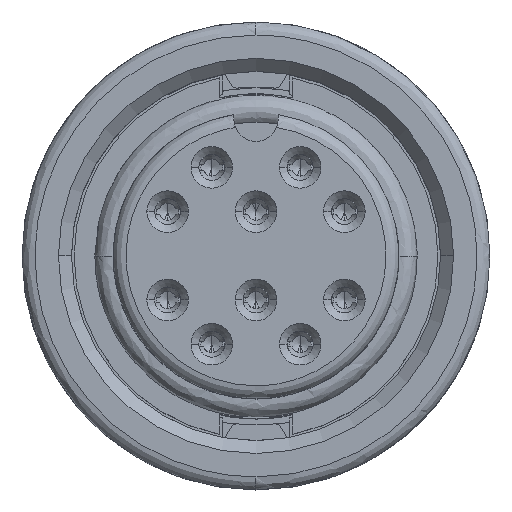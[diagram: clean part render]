
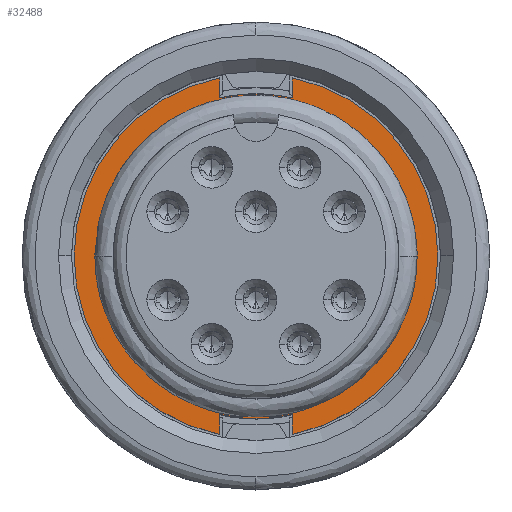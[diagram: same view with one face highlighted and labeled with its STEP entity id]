
A CAD part, top view. The second image highlights one B-rep face of the part: STEP entity #32488.
In plain terms, the highlighted planar face has unit normal (0, 0, 1).
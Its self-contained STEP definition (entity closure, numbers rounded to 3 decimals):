
#385 = VECTOR ( 'NONE', #39840, 1000. ) ;
#1000 = CARTESIAN_POINT ( 'NONE',  ( 1.4, 6.859, -7.8 ) ) ;
#1008 = EDGE_CURVE ( 'NONE', #22319, #39176, #25017, .T. ) ;
#1203 = ORIENTED_EDGE ( 'NONE', *, *, #3657, .T. ) ;
#2185 = DIRECTION ( 'NONE',  ( -1., 0., 0. ) ) ;
#2946 = DIRECTION ( 'NONE',  ( 0., 0., 1. ) ) ;
#3288 = AXIS2_PLACEMENT_3D ( 'NONE', #7822, #17799, #24792 ) ;
#3657 = EDGE_CURVE ( 'NONE', #23824, #35561, #36348, .T. ) ;
#5276 = ORIENTED_EDGE ( 'NONE', *, *, #34188, .T. ) ;
#5352 = ORIENTED_EDGE ( 'NONE', *, *, #32143, .T. ) ;
#6903 = CIRCLE ( 'NONE', #33633, 7. ) ;
#7312 = DIRECTION ( 'NONE',  ( 0., 0., 1. ) ) ;
#7415 = CARTESIAN_POINT ( 'NONE',  ( -1.4, -6.091, -7.8 ) ) ;
#7733 = AXIS2_PLACEMENT_3D ( 'NONE', #21817, #38846, #7807 ) ;
#7807 = DIRECTION ( 'NONE',  ( -1., 0., 0. ) ) ;
#7822 = CARTESIAN_POINT ( 'NONE',  ( 0., 0., -7.8 ) ) ;
#7953 = ORIENTED_EDGE ( 'NONE', *, *, #28069, .T. ) ;
#8290 = EDGE_CURVE ( 'NONE', #33566, #23824, #16188, .T. ) ;
#8492 = DIRECTION ( 'NONE',  ( 0., 1., 0. ) ) ;
#9149 = DIRECTION ( 'NONE',  ( 0., 1., 0. ) ) ;
#9248 = LINE ( 'NONE', #39621, #385 ) ;
#9350 = CARTESIAN_POINT ( 'NONE',  ( -1.4, 6.091, -7.8 ) ) ;
#10391 = ORIENTED_EDGE ( 'NONE', *, *, #12648, .T. ) ;
#10840 = CARTESIAN_POINT ( 'NONE',  ( -1.4, -6.859, -7.8 ) ) ;
#11635 = AXIS2_PLACEMENT_3D ( 'NONE', #36191, #16269, #2185 ) ;
#12302 = CIRCLE ( 'NONE', #39078, 6.25 ) ;
#12341 = ORIENTED_EDGE ( 'NONE', *, *, #8290, .T. ) ;
#12648 = EDGE_CURVE ( 'NONE', #40571, #33566, #9248, .T. ) ;
#13969 = DIRECTION ( 'NONE',  ( 0., 0., 1. ) ) ;
#14119 = DIRECTION ( 'NONE',  ( 1., 0., 0. ) ) ;
#14155 = CIRCLE ( 'NONE', #3288, 7. ) ;
#14279 = AXIS2_PLACEMENT_3D ( 'NONE', #20435, #7312, #14119 ) ;
#14849 = CARTESIAN_POINT ( 'NONE',  ( -1.4, 0., -7.8 ) ) ;
#15266 = CIRCLE ( 'NONE', #11635, 5.5 ) ;
#15391 = VERTEX_POINT ( 'NONE', #24214 ) ;
#15494 = EDGE_CURVE ( 'NONE', #23407, #15391, #35988, .T. ) ;
#16188 = CIRCLE ( 'NONE', #28452, 6.25 ) ;
#16269 = DIRECTION ( 'NONE',  ( 0., 0., -1. ) ) ;
#17146 = ORIENTED_EDGE ( 'NONE', *, *, #40304, .T. ) ;
#17799 = DIRECTION ( 'NONE',  ( 0., 0., 1. ) ) ;
#18460 = DIRECTION ( 'NONE',  ( -1., 0., 0. ) ) ;
#19340 = VERTEX_POINT ( 'NONE', #34136 ) ;
#20435 = CARTESIAN_POINT ( 'NONE',  ( 0., 0., -7.8 ) ) ;
#21610 = VECTOR ( 'NONE', #8492, 1000. ) ;
#21817 = CARTESIAN_POINT ( 'NONE',  ( 0., 0., -7.8 ) ) ;
#22319 = VERTEX_POINT ( 'NONE', #10840 ) ;
#23407 = VERTEX_POINT ( 'NONE', #35101 ) ;
#23797 = CARTESIAN_POINT ( 'NONE',  ( 0., 0., -7.8 ) ) ;
#23824 = VERTEX_POINT ( 'NONE', #9350 ) ;
#23852 = FACE_BOUND ( 'NONE', #39133, .T. ) ;
#24214 = CARTESIAN_POINT ( 'NONE',  ( 1.4, -6.859, -7.8 ) ) ;
#24389 = VECTOR ( 'NONE', #43450, 1000. ) ;
#24792 = DIRECTION ( 'NONE',  ( -1., 0., 0. ) ) ;
#25017 = LINE ( 'NONE', #14849, #21610 ) ;
#25923 = CARTESIAN_POINT ( 'NONE',  ( -1.4, 0., -7.8 ) ) ;
#26796 = CARTESIAN_POINT ( 'NONE',  ( 0., 0., -7.8 ) ) ;
#27285 = CIRCLE ( 'NONE', #7733, 5.5 ) ;
#28069 = EDGE_CURVE ( 'NONE', #35561, #22319, #6903, .T. ) ;
#28151 = FACE_OUTER_BOUND ( 'NONE', #42337, .T. ) ;
#28452 = AXIS2_PLACEMENT_3D ( 'NONE', #23797, #2946, #33321 ) ;
#29661 = CARTESIAN_POINT ( 'NONE',  ( 1.4, 0., -7.8 ) ) ;
#29864 = VECTOR ( 'NONE', #9149, 1000. ) ;
#32143 = EDGE_CURVE ( 'NONE', #42263, #19340, #27285, .T. ) ;
#32261 = CARTESIAN_POINT ( 'NONE',  ( 0., 0., -7.8 ) ) ;
#32488 = ADVANCED_FACE ( 'NONE', ( #28151, #23852 ), #41301, .T. ) ;
#32562 = ORIENTED_EDGE ( 'NONE', *, *, #35262, .T. ) ;
#33321 = DIRECTION ( 'NONE',  ( -1., 0., 0. ) ) ;
#33566 = VERTEX_POINT ( 'NONE', #34280 ) ;
#33633 = AXIS2_PLACEMENT_3D ( 'NONE', #26796, #40614, #43774 ) ;
#34136 = CARTESIAN_POINT ( 'NONE',  ( 0., 5.5, -7.8 ) ) ;
#34188 = EDGE_CURVE ( 'NONE', #19340, #42263, #15266, .T. ) ;
#34280 = CARTESIAN_POINT ( 'NONE',  ( 1.4, 6.091, -7.8 ) ) ;
#34461 = CARTESIAN_POINT ( 'NONE',  ( 0., -5.5, -7.8 ) ) ;
#35101 = CARTESIAN_POINT ( 'NONE',  ( 1.4, -6.091, -7.8 ) ) ;
#35262 = EDGE_CURVE ( 'NONE', #39176, #23407, #12302, .T. ) ;
#35561 = VERTEX_POINT ( 'NONE', #43137 ) ;
#35988 = LINE ( 'NONE', #29661, #24389 ) ;
#36191 = CARTESIAN_POINT ( 'NONE',  ( 0., 0., -7.8 ) ) ;
#36348 = LINE ( 'NONE', #25923, #29864 ) ;
#38846 = DIRECTION ( 'NONE',  ( 0., 0., -1. ) ) ;
#39078 = AXIS2_PLACEMENT_3D ( 'NONE', #32261, #13969, #18460 ) ;
#39133 = EDGE_LOOP ( 'NONE', ( #5352, #5276 ) ) ;
#39176 = VERTEX_POINT ( 'NONE', #7415 ) ;
#39621 = CARTESIAN_POINT ( 'NONE',  ( 1.4, 0., -7.8 ) ) ;
#39641 = ORIENTED_EDGE ( 'NONE', *, *, #15494, .T. ) ;
#39840 = DIRECTION ( 'NONE',  ( 0., -1., 0. ) ) ;
#40217 = ORIENTED_EDGE ( 'NONE', *, *, #1008, .T. ) ;
#40304 = EDGE_CURVE ( 'NONE', #15391, #40571, #14155, .T. ) ;
#40571 = VERTEX_POINT ( 'NONE', #1000 ) ;
#40614 = DIRECTION ( 'NONE',  ( 0., 0., 1. ) ) ;
#41301 = PLANE ( 'NONE',  #14279 ) ;
#42263 = VERTEX_POINT ( 'NONE', #34461 ) ;
#42337 = EDGE_LOOP ( 'NONE', ( #39641, #17146, #10391, #12341, #1203, #7953, #40217, #32562 ) ) ;
#43137 = CARTESIAN_POINT ( 'NONE',  ( -1.4, 6.859, -7.8 ) ) ;
#43450 = DIRECTION ( 'NONE',  ( 0., -1., 0. ) ) ;
#43774 = DIRECTION ( 'NONE',  ( -1., 0., 0. ) ) ;
